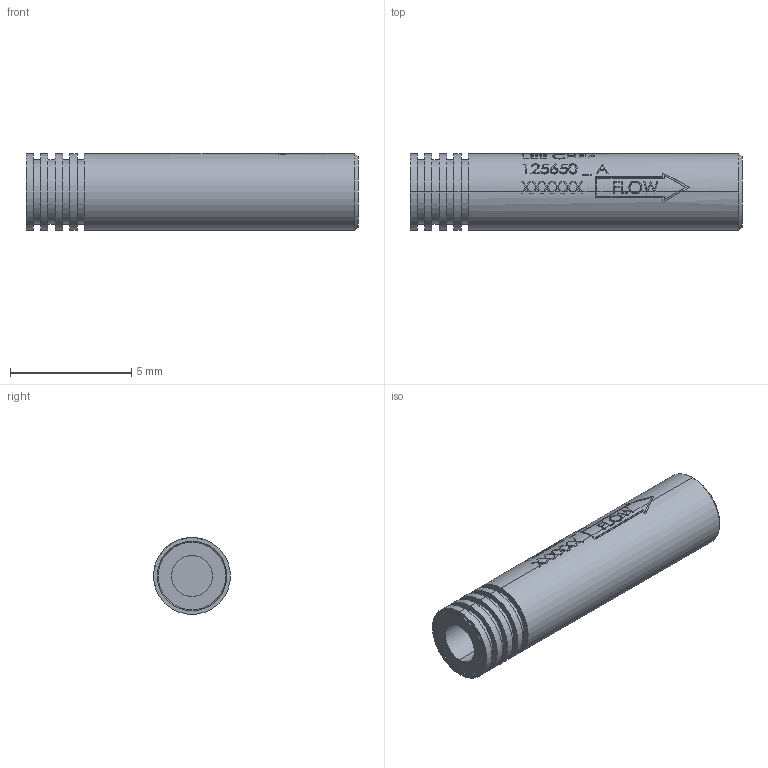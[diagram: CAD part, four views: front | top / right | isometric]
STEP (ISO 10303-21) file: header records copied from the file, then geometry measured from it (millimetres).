
FILE_DESCRIPTION (( 'STEP AP214' ), '1' );
FILE_NAME ('3DCHFA125650-A.STEP', '2021-03-30T17:52:13', ( '' ), ( '' ), 'SwSTEP 2.0', 'SolidWorks 2019', '' );
FILE_SCHEMA (( 'AUTOMOTIVE_DESIGN' ));
Length unit declared in the file: inch
Products named in the file (1): 3DCHFA125650-A
Bounding box: 13.72 x 3.17 x 3.17 mm (x, y, z)
Volume: 96.5 mm3; surface area: 191.8 mm2
Topology: 1 solids, 1 shells, 402 faces, 1103 edges, 734 vertices
Faces by surface type: plane 158, bspline 157, cylinder 83, cone 4
Entity records: 19850 total; most frequent: CARTESIAN_POINT 6545, ORIENTED_EDGE 2206, DIRECTION 1154, EDGE_CURVE 1103, VERTEX_POINT 734, B_SPLINE_CURVE_WITH_KNOTS 595, EDGE_LOOP 433, FACE_OUTER_BOUND 402
